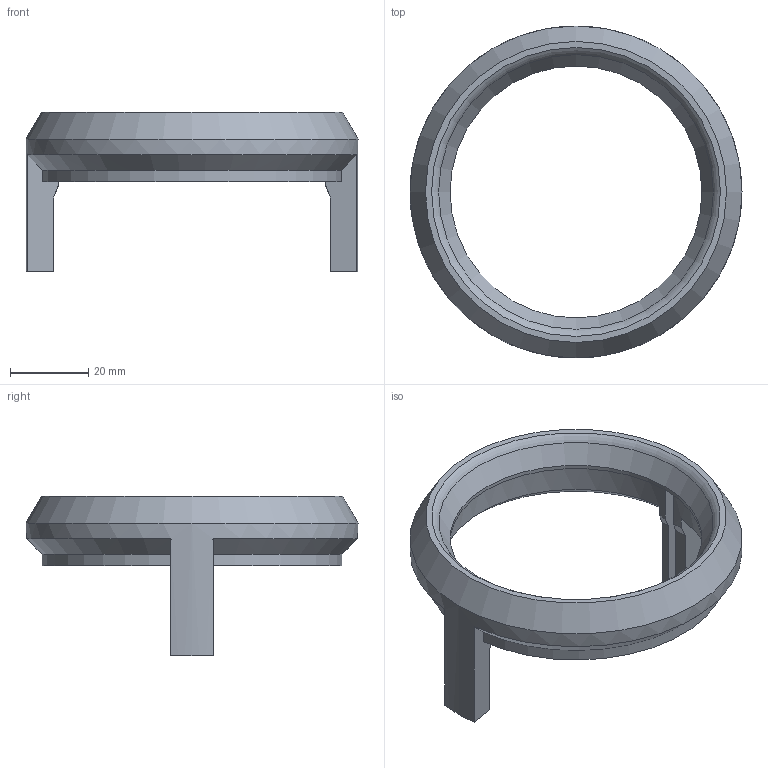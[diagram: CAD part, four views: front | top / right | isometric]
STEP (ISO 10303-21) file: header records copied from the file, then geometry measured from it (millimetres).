
FILE_DESCRIPTION(/* description */ (''),/* implementation_level */ '2;1');
FILE_NAME(/* name */ 'F:/F-Shared-Ryzen7 - PROD/F-OWL-PLANES/F16/STLs/OWLplane OWL F-16 Falcon v1.0/OWL F-16 Falcon 64mm - SUPPORT ver 0.9/F-16 Falcon 64mm EDF BRACKETS/STEP/EDF-64 FMS 64mm - Bracket v1.step',/* time_stamp */ '2022-10-07T18:54:27+07:00',/* author */ (''),/* organization */ (''),/* preprocessor_version */ 'ST-DEVELOPER v19',/* originating_system */ 'Autodesk Translation Framework v11.7.0.108',/* authorisation */ '');
FILE_SCHEMA (('AUTOMOTIVE_DESIGN { 1 0 10303 214 3 1 1 }'));
Length unit declared in the file: millimetre
Products named in the file (1): EDF-64 FMS 64mm - Bracket
Bounding box: 85 x 85 x 40.88 mm (x, y, z)
Volume: 28849.5 mm3; surface area: 13546.7 mm2
Topology: 1 solids, 1 shells, 37 faces, 105 edges, 70 vertices
Faces by surface type: plane 22, cylinder 8, cone 6, torus 1
Full cylindrical faces by diameter (mm): 64.5 x1, 85 x1
Entity records: 1256 total; most frequent: CARTESIAN_POINT 230, ORIENTED_EDGE 210, DIRECTION 206, EDGE_CURVE 105, AXIS2_PLACEMENT_3D 71, VERTEX_POINT 70, LINE 64, VECTOR 64
